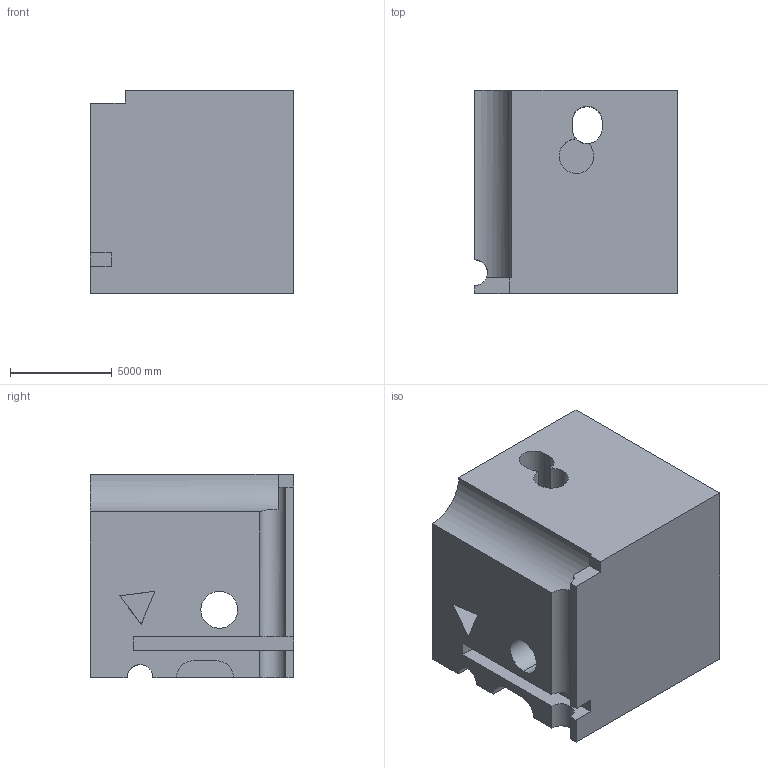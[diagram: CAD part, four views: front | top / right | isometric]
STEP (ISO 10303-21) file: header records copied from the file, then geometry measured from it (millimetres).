
FILE_DESCRIPTION (( 'STEP AP203' ), '1' );
FILE_NAME ('199.STEP', '2022-09-06T13:42:28', ( 'user' ), ( '' ), 'SwSTEP 2.0', 'SolidWorks 2021', '' );
FILE_SCHEMA (( 'CONFIG_CONTROL_DESIGN' ));
Length unit declared in the file: centimetre
Products named in the file (1): 199
Bounding box: 10000 x 10000 x 10000 mm (x, y, z)
Volume: 877008718558.9 mm3; surface area: 774466196.3 mm2
Topology: 1 solids, 1 shells, 44 faces, 132 edges, 88 vertices
Faces by surface type: plane 28, cylinder 16
Entity records: 1806 total; most frequent: CARTESIAN_POINT 527, ORIENTED_EDGE 264, DIRECTION 241, EDGE_CURVE 132, VECTOR 89, LINE 89, VERTEX_POINT 88, AXIS2_PLACEMENT_3D 76
